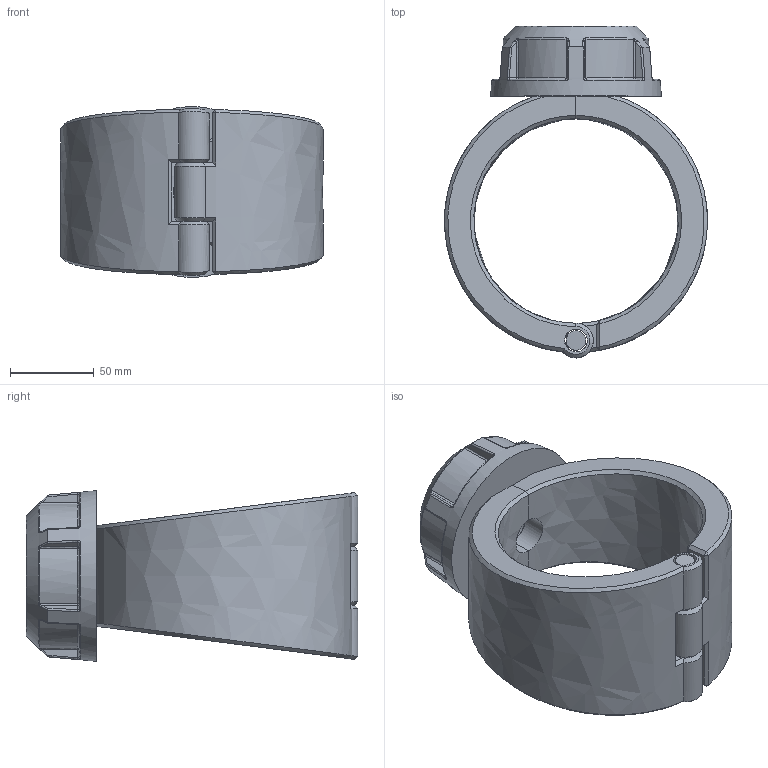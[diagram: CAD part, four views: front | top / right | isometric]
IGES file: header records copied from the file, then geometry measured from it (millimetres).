
Global section: file name: 163000122015; native system: Autodesk Inventor 2019; preprocessor: unknown; author: comp2; date: 20220203.115023; units: millimetre
Bounding box: 156.99 x 198 x 101.86 mm (x, y, z)
Volume: 793154.2 mm3; surface area: 126170.2 mm2
Topology: 4 solids, 4 shells, 203 faces, 486 edges, 293 vertices
Faces by surface type: bspline 203
